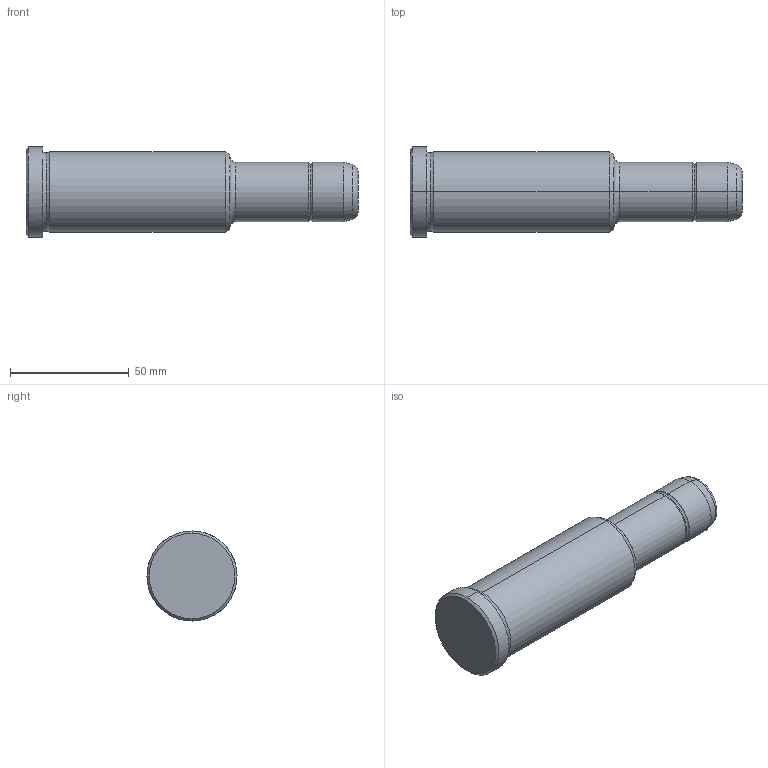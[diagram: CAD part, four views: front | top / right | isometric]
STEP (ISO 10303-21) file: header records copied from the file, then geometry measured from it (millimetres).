
FILE_DESCRIPTION(('CATIA V5 STEP Exchange'),'2;1');
FILE_NAME('C:\Users\Utente\Desktop\IO LAVORO\3D X SITO CF\X SITO\PLASTICA\351\351-25X86X140.stp','2021-09-07T11:27:12+00:00',('none'),('none'),'CATIA Version 5 Release 20 GA (IN-10)','CATIA V5 STEP AP203','none');
FILE_SCHEMA(('CONFIG_CONTROL_DESIGN'));
Length unit declared in the file: millimetre
Products named in the file (1): 351-25X86X140
Bounding box: 140 x 38 x 38 mm (x, y, z)
Volume: 105473.8 mm3; surface area: 15422.1 mm2
Topology: 1 solids, 1 shells, 30 faces, 86 edges, 60 vertices
Faces by surface type: torus 12, cylinder 8, cone 6, plane 4
Entity records: 1112 total; most frequent: CARTESIAN_POINT 289, ORIENTED_EDGE 172, DIRECTION 138, AXIS2_PLACEMENT_3D 95, EDGE_CURVE 86, CIRCLE 64, VERTEX_POINT 60, EDGE_LOOP 32
